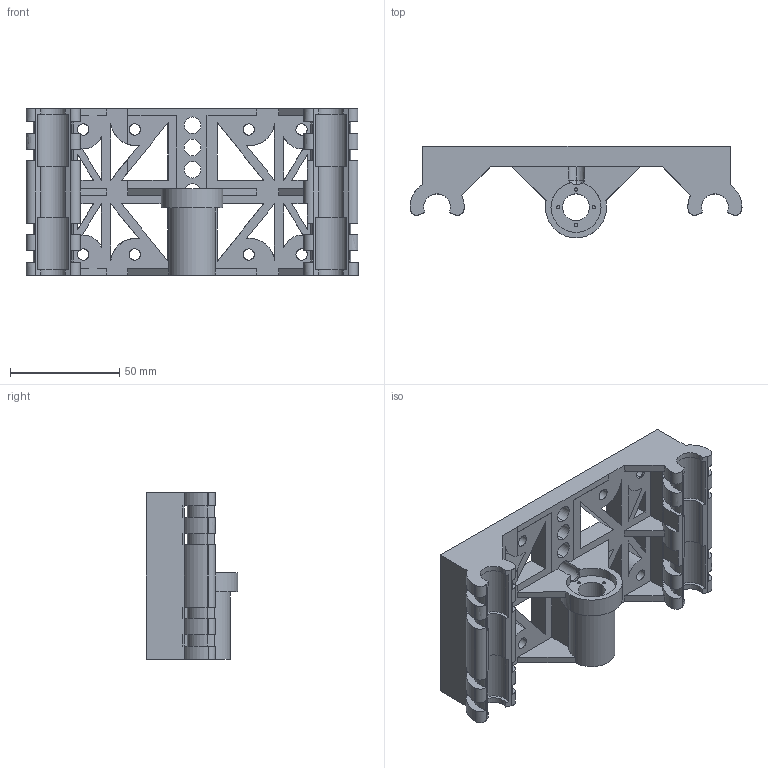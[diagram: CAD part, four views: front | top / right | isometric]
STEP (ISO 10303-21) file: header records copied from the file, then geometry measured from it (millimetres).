
FILE_DESCRIPTION (( 'STEP AP203' ), '1' );
FILE_NAME ('horz carrier.STEP', '2017-10-24T20:02:06', ( '' ), ( '' ), 'SwSTEP 2.0', 'SolidWorks 2016', '' );
FILE_SCHEMA (( 'CONFIG_CONTROL_DESIGN' ));
Length unit declared in the file: inch
Products named in the file (1): horz carrier
Bounding box: 151.76 x 41.86 x 76.2 mm (x, y, z)
Volume: 126780.2 mm3; surface area: 59061.7 mm2
Topology: 1 solids, 1 shells, 407 faces, 1175 edges, 738 vertices
Faces by surface type: cylinder 197, plane 129, torus 40, cone 39, bspline 2
Entity records: 13694 total; most frequent: CARTESIAN_POINT 2731, DIRECTION 2359, ORIENTED_EDGE 2278, EDGE_CURVE 1139, AXIS2_PLACEMENT_3D 880, VERTEX_POINT 738, VECTOR 599, LINE 599
